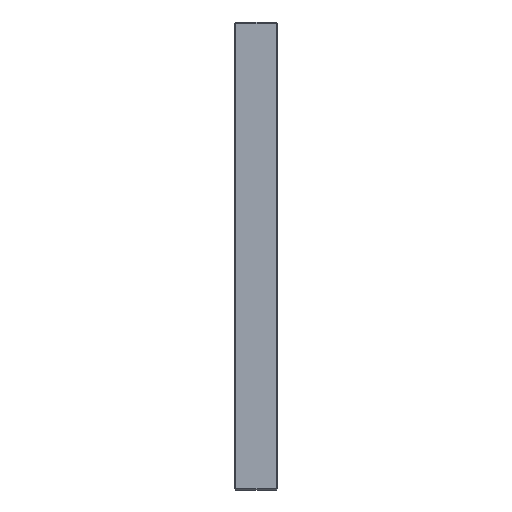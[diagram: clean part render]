
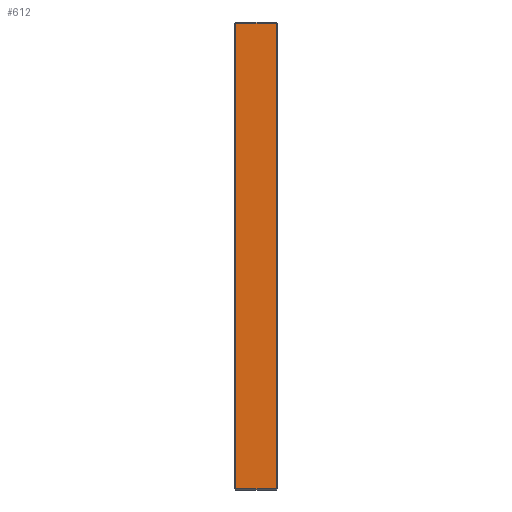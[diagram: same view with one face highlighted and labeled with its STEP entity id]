
A CAD part, left-side view. The second image highlights one B-rep face of the part: STEP entity #612.
In plain terms, the highlighted planar face has unit normal (-1, 0, 0).
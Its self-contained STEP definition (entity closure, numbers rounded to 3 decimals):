
#397 = CARTESIAN_POINT ( 'NONE',  ( -198., 1., 198. ) ) ;
#468 = EDGE_CURVE ( 'NONE', #1976, #2054, #566, .T. ) ;
#474 = EDGE_CURVE ( 'NONE', #1389, #1976, #608, .T. ) ;
#566 = LINE ( 'NONE', #397, #1742 ) ;
#608 = LINE ( 'NONE', #1394, #993 ) ;
#612 = ADVANCED_FACE ( 'NONE', ( #1613 ), #2135, .F. ) ;
#681 = VERTEX_POINT ( 'NONE', #1254 ) ;
#685 = EDGE_CURVE ( 'NONE', #2054, #681, #1837, .T. ) ;
#719 = ORIENTED_EDGE ( 'NONE', *, *, #474, .T. ) ;
#743 = EDGE_CURVE ( 'NONE', #681, #1389, #1773, .T. ) ;
#799 = CARTESIAN_POINT ( 'NONE',  ( -198., 1., 197. ) ) ;
#822 = CARTESIAN_POINT ( 'NONE',  ( -198., 35., -198. ) ) ;
#891 = DIRECTION ( 'NONE',  ( 0., 0., 1. ) ) ;
#972 = EDGE_LOOP ( 'NONE', ( #719, #2190, #1594, #1968 ) ) ;
#985 = CARTESIAN_POINT ( 'NONE',  ( -198., 35., -197. ) ) ;
#989 = DIRECTION ( 'NONE',  ( 0., 0., -1. ) ) ;
#993 = VECTOR ( 'NONE', #2327, 1000. ) ;
#1197 = CARTESIAN_POINT ( 'NONE',  ( -198., 1., -197. ) ) ;
#1212 = DIRECTION ( 'NONE',  ( 0., 1., 0. ) ) ;
#1254 = CARTESIAN_POINT ( 'NONE',  ( -198., 35., 197. ) ) ;
#1321 = VECTOR ( 'NONE', #1212, 1000. ) ;
#1389 = VERTEX_POINT ( 'NONE', #985 ) ;
#1394 = CARTESIAN_POINT ( 'NONE',  ( -198., 36., -197. ) ) ;
#1406 = CARTESIAN_POINT ( 'NONE',  ( -198., 36., 197. ) ) ;
#1594 = ORIENTED_EDGE ( 'NONE', *, *, #685, .T. ) ;
#1613 = FACE_OUTER_BOUND ( 'NONE', #972, .T. ) ;
#1742 = VECTOR ( 'NONE', #891, 1000. ) ;
#1773 = LINE ( 'NONE', #822, #2278 ) ;
#1837 = LINE ( 'NONE', #1406, #1321 ) ;
#1957 = DIRECTION ( 'NONE',  ( 0., 0., -1. ) ) ;
#1968 = ORIENTED_EDGE ( 'NONE', *, *, #743, .T. ) ;
#1975 = DIRECTION ( 'NONE',  ( 1., 0., 0. ) ) ;
#1976 = VERTEX_POINT ( 'NONE', #1197 ) ;
#2054 = VERTEX_POINT ( 'NONE', #799 ) ;
#2102 = CARTESIAN_POINT ( 'NONE',  ( -198., 36., 198. ) ) ;
#2135 = PLANE ( 'NONE',  #2208 ) ;
#2190 = ORIENTED_EDGE ( 'NONE', *, *, #468, .T. ) ;
#2208 = AXIS2_PLACEMENT_3D ( 'NONE', #2102, #1975, #1957 ) ;
#2278 = VECTOR ( 'NONE', #989, 1000. ) ;
#2327 = DIRECTION ( 'NONE',  ( 0., -1., 0. ) ) ;
